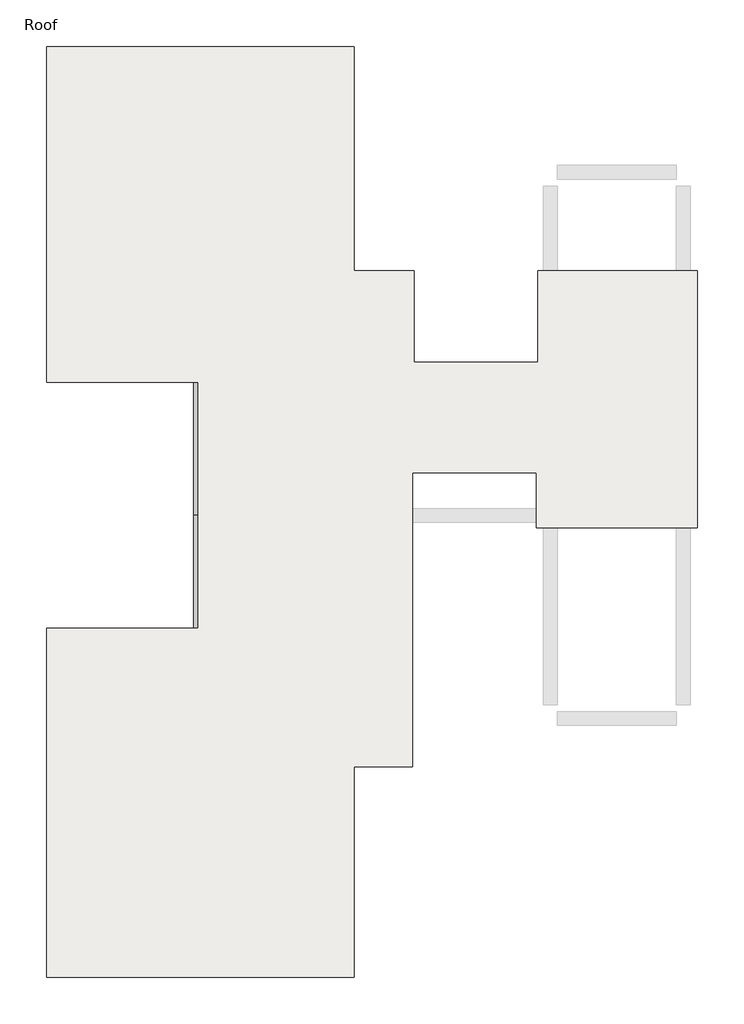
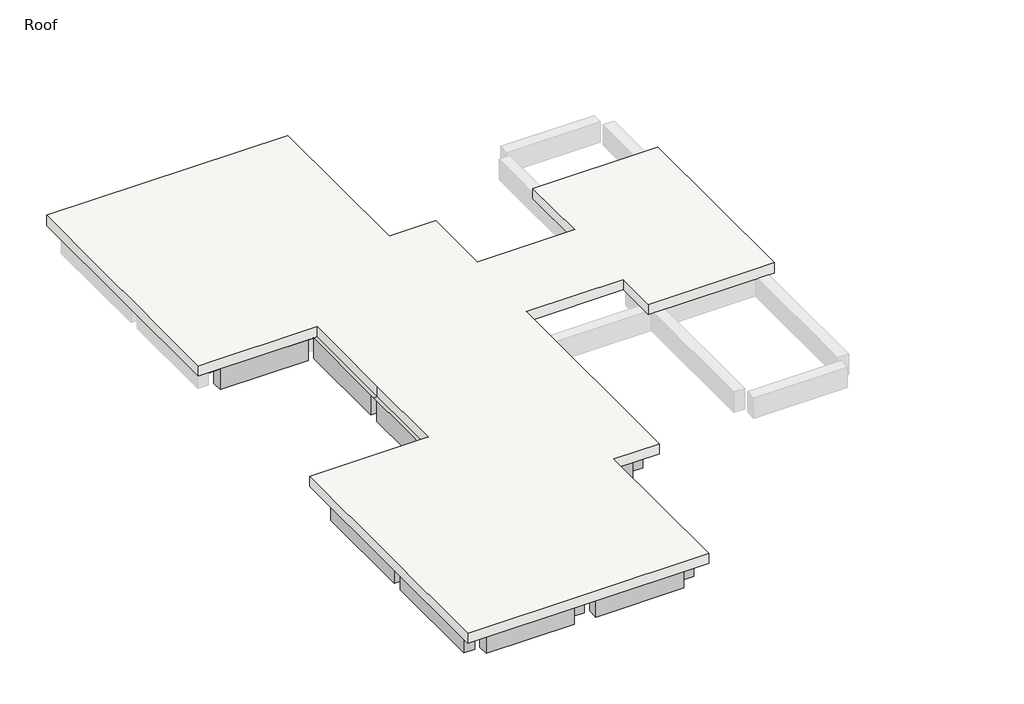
# One storey, part 1 of 2: 18 beams, 1 slab.
"""IFC4 building model written with IfcOpenShell, lengths in millimetres."""

from ifc_helpers import new_model, si_unit, origin, place, context, project, spatial, faceted_brep, element, save

model = new_model("IFC4")

# Units and contexts
model_context = context("Model", 3, world=origin())
ifc_project = project(units=[si_unit("LENGTHUNIT", "METRE", prefix="MILLI")], contexts=[model_context])

# Site, building, storey
site = spatial("IfcSite", under=ifc_project)
building = spatial("IfcBuilding", under=site)
storey = spatial("IfcBuildingStorey", under=building, Name="Roof", Elevation=7620.0)

# Beams
placement = place(None, origin())
element("IfcBeam", 1, ObjectType="M_Concrete-Rectangular Beam : 300 x 600mm", at=placement, inside=storey, context=model_context, shape_type="Brep", body=[
    faceted_brep([(-9933.3472303, 7869.016665, 7320.0), (-9933.3472303, 7719.016665, 7320.0), (-9933.3472303, 4821.016665, 7320.0), (-9783.3472303, 4821.016665, 7320.0), (-9783.3472303, 4971.016665, 7320.0), (-9633.3472303, 4971.016665, 7320.0), (-9633.3472303, 7719.016665, 7320.0), (-9633.3472303, 7869.016665, 7320.0), (-9783.3472303, 7869.016665, 7320.0), (-9633.3472303, 7719.016665, 6720.0), (-9633.3472303, 7719.016665, 7315.2), (-9633.3472303, 7869.016665, 7315.2), (-9633.3472303, 4971.016665, 6720.0), (-9933.3472303, 4971.016665, 6720.0), (-9933.3472303, 7719.016665, 6720.0), (-9933.3472303, 7869.016665, 7315.2), (-9933.3472303, 7719.016665, 7315.2), (-9933.3472303, 4971.016665, 7315.2), (-9933.3472303, 4821.016665, 7315.2), (-9783.3472303, 4971.016665, 7315.2), (-9783.3472303, 7869.016665, 7315.2), (-9783.3472303, 4821.016665, 7315.2)], [[[0, 1, 2, 3, 4, 5, 6, 7, 8]], [[9, 10, 11, 7, 6, 5, 12]], [[12, 13, 14, 9]], [[2, 1, 0, 15, 16, 14, 13, 17, 18]], [[5, 4, 19, 17, 13, 12]], [[16, 10, 9, 14]], [[10, 16, 15, 20, 11]], [[17, 19, 21, 18]], [[0, 8, 7, 11, 20, 15]], [[3, 2, 18, 21]], [[4, 3, 21, 19]]]),
])
element("IfcBeam", 2, ObjectType="M_Concrete-Rectangular Beam : 300 x 600mm", at=placement, inside=storey, context=model_context, shape_type="Brep", body=[
    faceted_brep([(-12681.3472303, 8019.016665, 7320.0), (-12681.3472303, 7869.016665, 7320.0), (-12831.3472303, 7869.016665, 7320.0), (-12831.3472303, 7719.016665, 7320.0), (-9933.3472303, 7719.016665, 7320.0), (-9933.3472303, 7869.016665, 7320.0), (-9933.3472303, 8019.016665, 7320.0), (-12531.3472303, 7719.016665, 7315.2), (-12531.3472303, 7719.016665, 6720.0), (-10083.3472303, 7719.016665, 6720.0), (-10083.3472303, 7719.016665, 7315.2), (-9933.3472303, 7719.016665, 7315.2), (-12831.3472303, 7719.016665, 7315.2), (-12531.3472303, 8019.016665, 6720.0), (-10083.3472303, 8019.016665, 6720.0), (-12681.3472303, 8019.016665, 7315.2), (-9933.3472303, 8019.016665, 7315.2), (-10083.3472303, 8019.016665, 7315.2), (-12531.3472303, 8019.016665, 7315.2), (-9933.3472303, 7869.016665, 7315.2), (-12681.3472303, 7869.016665, 7315.2), (-12831.3472303, 7869.016665, 7315.2)], [[[0, 1, 2, 3, 4, 5, 6]], [[7, 8, 9, 10, 11, 4, 3, 12]], [[8, 13, 14, 9]], [[15, 0, 6, 16, 17, 14, 13, 18]], [[6, 5, 4, 11, 19, 16]], [[1, 0, 15, 20]], [[7, 18, 13, 8]], [[18, 7, 12, 21, 20, 15]], [[17, 10, 9, 14]], [[10, 17, 16, 19, 11]], [[3, 2, 21, 12]], [[2, 1, 20, 21]]]),
])
element("IfcBeam", 3, ObjectType="M_Concrete-Rectangular Beam : 300 x 600mm", at=placement, inside=storey, context=model_context, shape_type="Brep", body=[
    faceted_brep([(-5366.3472303, 1773.016665, 7320.0), (-5366.3472303, 4671.016665, 7320.0), (-5366.3472303, 4821.016665, 7320.0), (-5516.3472303, 4821.016665, 7320.0), (-5516.3472303, 4671.016665, 7320.0), (-5666.3472303, 4671.016665, 7320.0), (-5666.3472303, 1923.016665, 7320.0), (-5666.3472303, 1773.016665, 7320.0), (-5516.3472303, 1773.016665, 7320.0), (-5666.3472303, 4671.016665, 6720.0), (-5666.3472303, 1923.016665, 6720.0), (-5666.3472303, 1923.016665, 7315.2), (-5666.3472303, 1773.016665, 7315.2), (-5366.3472303, 4671.016665, 6720.0), (-5366.3472303, 1923.016665, 6720.0), (-5366.3472303, 1773.016665, 7315.2), (-5366.3472303, 1923.016665, 7315.2), (-5366.3472303, 4671.016665, 7315.2), (-5366.3472303, 4821.016665, 7315.2), (-5516.3472303, 4671.016665, 7315.2), (-5516.3472303, 4821.016665, 7315.2), (-5516.3472303, 1773.016665, 7315.2)], [[[0, 1, 2, 3, 4, 5, 6, 7, 8]], [[7, 6, 5, 9, 10, 11, 12]], [[9, 13, 14, 10]], [[2, 1, 0, 15, 16, 14, 13, 17, 18]], [[5, 4, 19, 17, 13, 9]], [[17, 19, 20, 18]], [[16, 11, 10, 14]], [[11, 16, 15, 21, 12]], [[3, 2, 18, 20]], [[0, 8, 7, 12, 21, 15]], [[4, 3, 20, 19]]]),
])
element("IfcBeam", 4, ObjectType="M_Concrete-Rectangular Beam : 300 x 600mm", at=placement, inside=storey, context=model_context, shape_type="Brep", body=[
    faceted_brep([(-9783.3472303, 1623.016665, 7320.0), (-9633.3472303, 1623.016665, 7320.0), (-5666.3472303, 1623.016665, 7320.0), (-5516.3472303, 1623.016665, 7320.0), (-5516.3472303, 1773.016665, 7320.0), (-5666.3472303, 1773.016665, 7320.0), (-5666.3472303, 1923.016665, 7320.0), (-9633.3472303, 1923.016665, 7320.0), (-9783.3472303, 1923.016665, 7320.0), (-9783.3472303, 1773.016665, 7320.0), (-9483.3472303, 1923.016665, 6720.0), (-9483.3472303, 1923.016665, 7315.2), (-9783.3472303, 1923.016665, 7315.2), (-5666.3472303, 1923.016665, 7315.2), (-5816.3472303, 1923.016665, 7315.2), (-5816.3472303, 1923.016665, 6720.0), (-9483.3472303, 1623.016665, 6720.0), (-5816.3472303, 1623.016665, 6720.0), (-9783.3472303, 1623.016665, 7315.2), (-9483.3472303, 1623.016665, 7315.2), (-5816.3472303, 1623.016665, 7315.2), (-5516.3472303, 1623.016665, 7315.2), (-5666.3472303, 1773.016665, 7315.2), (-9783.3472303, 1773.016665, 7315.2), (-5516.3472303, 1773.016665, 7315.2)], [[[0, 1, 2, 3, 4, 5, 6, 7, 8, 9]], [[10, 11, 12, 8, 7, 6, 13, 14, 15]], [[16, 10, 15, 17]], [[3, 2, 1, 0, 18, 19, 16, 17, 20, 21]], [[6, 5, 22, 13]], [[19, 11, 10, 16]], [[11, 19, 18, 23, 12]], [[14, 20, 17, 15]], [[20, 14, 13, 22, 24, 21]], [[0, 9, 8, 12, 23, 18]], [[4, 3, 21, 24]], [[5, 4, 24, 22]]]),
])
element("IfcBeam", 5, ObjectType="M_Concrete-Rectangular Beam : 300 x 600mm", at=placement, inside=storey, context=model_context, shape_type="Brep", body=[
    faceted_brep([(-9933.3472303, 4821.016665, 7320.0), (-9933.3472303, 1923.016665, 7320.0), (-9933.3472303, 1773.016665, 7320.0), (-9783.3472303, 1773.016665, 7320.0), (-9783.3472303, 1923.016665, 7320.0), (-9633.3472303, 1923.016665, 7320.0), (-9633.3472303, 4671.016665, 7320.0), (-9783.3472303, 4671.016665, 7320.0), (-9783.3472303, 4821.016665, 7320.0), (-9633.3472303, 1923.016665, 6720.0), (-9633.3472303, 4671.016665, 6720.0), (-9933.3472303, 1923.016665, 6720.0), (-9933.3472303, 4671.016665, 6720.0), (-9933.3472303, 4821.016665, 7315.2), (-9933.3472303, 4671.016665, 7315.2), (-9933.3472303, 1923.016665, 7315.2), (-9933.3472303, 1773.016665, 7315.2), (-9783.3472303, 4671.016665, 7315.2), (-9783.3472303, 1923.016665, 7315.2), (-9783.3472303, 4821.016665, 7315.2), (-9783.3472303, 1773.016665, 7315.2)], [[[0, 1, 2, 3, 4, 5, 6, 7, 8]], [[6, 5, 9, 10]], [[9, 11, 12, 10]], [[2, 1, 0, 13, 14, 12, 11, 15, 16]], [[7, 6, 10, 12, 14, 17]], [[5, 4, 18, 15, 11, 9]], [[17, 14, 13, 19]], [[15, 18, 20, 16]], [[0, 8, 19, 13]], [[3, 2, 16, 20]], [[8, 7, 17, 19]], [[4, 3, 20, 18]]]),
])
element("IfcBeam", 6, ObjectType="M_Concrete-Rectangular Beam : 300 x 600mm", at=placement, inside=storey, context=model_context, shape_type="Brep", body=[
    faceted_brep([(-5366.3472303, -360.983335, 7320.0), (-5366.3472303, 1773.016665, 7320.0), (-5516.3472303, 1773.016665, 7320.0), (-5516.3472303, 1623.016665, 7320.0), (-5666.3472303, 1623.016665, 7320.0), (-5666.3472303, -210.983335, 7320.0), (-5666.3472303, -360.983335, 7320.0), (-5516.3472303, -360.983335, 7320.0), (-5666.3472303, 1623.016665, 6720.0), (-5666.3472303, -210.983335, 6720.0), (-5666.3472303, -210.983335, 7315.2), (-5666.3472303, -360.983335, 7315.2), (-5366.3472303, 1623.016665, 6720.0), (-5366.3472303, -210.983335, 6720.0), (-5366.3472303, -360.983335, 7315.2), (-5366.3472303, -210.983335, 7315.2), (-5366.3472303, 1623.016665, 7315.2), (-5366.3472303, 1773.016665, 7315.2), (-5516.3472303, 1623.016665, 7315.2), (-5516.3472303, 1773.016665, 7315.2), (-5516.3472303, -360.983335, 7315.2)], [[[0, 1, 2, 3, 4, 5, 6, 7]], [[6, 5, 4, 8, 9, 10, 11]], [[8, 12, 13, 9]], [[1, 0, 14, 15, 13, 12, 16, 17]], [[4, 3, 18, 16, 12, 8]], [[16, 18, 19, 17]], [[15, 10, 9, 13]], [[10, 15, 14, 20, 11]], [[2, 1, 17, 19]], [[0, 7, 6, 11, 20, 14]], [[3, 2, 19, 18]]]),
])
element("IfcBeam", 7, ObjectType="M_Concrete-Rectangular Beam : 300 x 600mm", at=placement, inside=storey, context=model_context, shape_type="Brep", body=[
    faceted_brep([(-6885.3472303, -510.983335, 7320.0), (-6585.3472303, -510.983335, 7320.0), (-5516.3472303, -510.983335, 7320.0), (-5516.3472303, -360.983335, 7320.0), (-5666.3472303, -360.983335, 7320.0), (-5666.3472303, -210.983335, 7320.0), (-6885.3472303, -210.983335, 7320.0), (-6885.3472303, -210.983335, 6720.0), (-5666.3472303, -210.983335, 7315.2), (-5816.3472303, -210.983335, 7315.2), (-5816.3472303, -210.983335, 6720.0), (-6885.3472303, -510.983335, 6720.0), (-5816.3472303, -510.983335, 6720.0), (-6585.3472303, -510.983335, 6720.0), (-5816.3472303, -510.983335, 7315.2), (-5516.3472303, -510.983335, 7315.2), (-5516.3472303, -360.983335, 7315.2), (-5666.3472303, -360.983335, 7315.2)], [[[0, 1, 2, 3, 4, 5, 6]], [[7, 6, 5, 8, 9, 10]], [[11, 7, 10, 12, 13]], [[2, 1, 0, 11, 13, 12, 14, 15]], [[3, 2, 15, 16]], [[0, 6, 7, 11]], [[5, 4, 17, 8]], [[4, 3, 16, 17]], [[9, 14, 12, 10]], [[14, 9, 8, 17, 16, 15]]]),
])
element("IfcBeam", 8, ObjectType="M_Concrete-Rectangular Beam : 300 x 600mm", at=placement, inside=storey, context=model_context, shape_type="Brep", body=[
    faceted_brep([(-6885.3472303, -1579.983335, 7320.0), (-6735.3472303, -1579.983335, 7320.0), (-6585.3472303, -1579.983335, 7320.0), (-6585.3472303, -510.983335, 7320.0), (-6885.3472303, -510.983335, 7320.0), (-6885.3472303, -1429.983335, 7320.0), (-6885.3472303, -510.983335, 6720.0), (-6885.3472303, -1429.983335, 6720.0), (-6885.3472303, -1429.983335, 7315.2), (-6885.3472303, -1579.983335, 7315.2), (-6585.3472303, -510.983335, 6720.0), (-6585.3472303, -1429.983335, 6720.0), (-6585.3472303, -1579.983335, 7315.2), (-6585.3472303, -1429.983335, 7315.2), (-6735.3472303, -1579.983335, 7315.2)], [[[0, 1, 2, 3, 4, 5]], [[0, 5, 4, 6, 7, 8, 9]], [[6, 10, 11, 7]], [[3, 2, 12, 13, 11, 10]], [[2, 1, 0, 9, 14, 12]], [[4, 3, 10, 6]], [[13, 8, 7, 11]], [[8, 13, 12, 14, 9]]]),
])
element("IfcBeam", 9, ObjectType="M_Concrete-Rectangular Beam : 300 x 600mm", at=placement, inside=storey, context=model_context, shape_type="Brep", body=[
    faceted_brep([(-6585.3472303, -4932.983335, 7320.0), (-6585.3472303, -1579.983335, 7320.0), (-6735.3472303, -1579.983335, 7320.0), (-6735.3472303, -1729.983335, 7320.0), (-6885.3472303, -1729.983335, 7320.0), (-6885.3472303, -4782.983335, 7320.0), (-6885.3472303, -4932.983335, 7320.0), (-6735.3472303, -4932.983335, 7320.0), (-6885.3472303, -1729.983335, 6720.0), (-6885.3472303, -4782.983335, 6720.0), (-6885.3472303, -4782.983335, 7315.2), (-6885.3472303, -4932.983335, 7315.2), (-6585.3472303, -1729.983335, 6720.0), (-6585.3472303, -4782.983335, 6720.0), (-6585.3472303, -4932.983335, 7315.2), (-6585.3472303, -4782.983335, 7315.2), (-6585.3472303, -1729.983335, 7315.2), (-6585.3472303, -1579.983335, 7315.2), (-6735.3472303, -1579.983335, 7315.2), (-6735.3472303, -4932.983335, 7315.2), (-6735.3472303, -1729.983335, 7315.2)], [[[0, 1, 2, 3, 4, 5, 6, 7]], [[4, 8, 9, 10, 11, 6, 5]], [[9, 8, 12, 13]], [[1, 0, 14, 15, 13, 12, 16, 17]], [[1, 17, 18, 2]], [[0, 7, 6, 11, 19, 14]], [[4, 3, 20, 16, 12, 8]], [[17, 16, 20, 18]], [[15, 10, 9, 13]], [[10, 15, 14, 19, 11]], [[20, 3, 2, 18]]]),
])
element("IfcBeam", 10, ObjectType="M_Concrete-Rectangular Beam : 300 x 600mm", at=placement, inside=storey, context=model_context, shape_type="Brep", body=[
    faceted_brep([(-9783.3472303, -5082.983335, 7320.0), (-6735.3472303, -5082.983335, 7320.0), (-6735.3472303, -4932.983335, 7320.0), (-6885.3472303, -4932.983335, 7320.0), (-6885.3472303, -4782.983335, 7320.0), (-9633.3472303, -4782.983335, 7320.0), (-9783.3472303, -4782.983335, 7320.0), (-9783.3472303, -4932.983335, 7320.0), (-9483.3472303, -4782.983335, 6720.0), (-9483.3472303, -4782.983335, 7315.2), (-9783.3472303, -4782.983335, 7315.2), (-6885.3472303, -4782.983335, 7315.2), (-7035.3472303, -4782.983335, 7315.2), (-7035.3472303, -4782.983335, 6720.0), (-9483.3472303, -5082.983335, 6720.0), (-7035.3472303, -5082.983335, 6720.0), (-9783.3472303, -5082.983335, 7315.2), (-9483.3472303, -5082.983335, 7315.2), (-7035.3472303, -5082.983335, 7315.2), (-6735.3472303, -5082.983335, 7315.2), (-6885.3472303, -4932.983335, 7315.2), (-9783.3472303, -4932.983335, 7315.2), (-6735.3472303, -4932.983335, 7315.2)], [[[0, 1, 2, 3, 4, 5, 6, 7]], [[8, 9, 10, 6, 5, 4, 11, 12, 13]], [[14, 8, 13, 15]], [[1, 0, 16, 17, 14, 15, 18, 19]], [[4, 3, 20, 11]], [[17, 9, 8, 14]], [[9, 17, 16, 21, 10]], [[12, 18, 15, 13]], [[18, 12, 11, 20, 22, 19]], [[0, 7, 6, 10, 21, 16]], [[2, 1, 19, 22]], [[3, 2, 22, 20]]]),
])
element("IfcBeam", 11, ObjectType="M_Concrete-Rectangular Beam : 300 x 600mm", at=placement, inside=storey, context=model_context, shape_type="Brep", body=[
    faceted_brep([(-9933.3472303, -1579.983335, 7320.0), (-9933.3472303, -1729.983335, 7320.0), (-9933.3472303, -4782.983335, 7320.0), (-9933.3472303, -4932.983335, 7320.0), (-9783.3472303, -4932.983335, 7320.0), (-9783.3472303, -4782.983335, 7320.0), (-9633.3472303, -4782.983335, 7320.0), (-9633.3472303, -1729.983335, 7320.0), (-9633.3472303, -1579.983335, 7320.0), (-9783.3472303, -1579.983335, 7320.0), (-9633.3472303, -4782.983335, 6720.0), (-9633.3472303, -1729.983335, 6720.0), (-9633.3472303, -1729.983335, 7315.2), (-9633.3472303, -1579.983335, 7315.2), (-9933.3472303, -4782.983335, 6720.0), (-9933.3472303, -1729.983335, 6720.0), (-9933.3472303, -1579.983335, 7315.2), (-9933.3472303, -1729.983335, 7315.2), (-9933.3472303, -4782.983335, 7315.2), (-9933.3472303, -4932.983335, 7315.2), (-9783.3472303, -1579.983335, 7315.2), (-9783.3472303, -4932.983335, 7315.2), (-9783.3472303, -4782.983335, 7315.2)], [[[0, 1, 2, 3, 4, 5, 6, 7, 8, 9]], [[8, 7, 6, 10, 11, 12, 13]], [[11, 10, 14, 15]], [[3, 2, 1, 0, 16, 17, 15, 14, 18, 19]], [[0, 9, 8, 13, 20, 16]], [[4, 3, 19, 21]], [[6, 5, 22, 18, 14, 10]], [[5, 4, 21, 22]], [[17, 12, 11, 15]], [[12, 17, 16, 20, 13]], [[18, 22, 21, 19]]]),
])
element("IfcBeam", 12, ObjectType="M_Concrete-Rectangular Beam : 300 x 600mm", at=placement, inside=storey, context=model_context, shape_type="Brep", body=[
    faceted_brep([(-6885.3472303, -1579.983335, 7320.0), (-6885.3472303, -1429.983335, 7320.0), (-9633.3472303, -1429.983335, 7320.0), (-9783.3472303, -1429.983335, 7320.0), (-9783.3472303, -1579.983335, 7320.0), (-9633.3472303, -1579.983335, 7320.0), (-9633.3472303, -1729.983335, 7320.0), (-6885.3472303, -1729.983335, 7320.0), (-6735.3472303, -1729.983335, 7320.0), (-6735.3472303, -1579.983335, 7320.0), (-9633.3472303, -1729.983335, 7315.2), (-9483.3472303, -1729.983335, 7315.2), (-9483.3472303, -1729.983335, 6720.0), (-7035.3472303, -1729.983335, 6720.0), (-7035.3472303, -1729.983335, 7315.2), (-6735.3472303, -1729.983335, 7315.2), (-9483.3472303, -1429.983335, 6720.0), (-7035.3472303, -1429.983335, 6720.0), (-9483.3472303, -1429.983335, 7315.2), (-9783.3472303, -1429.983335, 7315.2), (-6885.3472303, -1429.983335, 7315.2), (-7035.3472303, -1429.983335, 7315.2), (-6885.3472303, -1579.983335, 7315.2), (-9633.3472303, -1579.983335, 7315.2), (-9783.3472303, -1579.983335, 7315.2), (-6735.3472303, -1579.983335, 7315.2)], [[[0, 1, 2, 3, 4, 5, 6, 7, 8, 9]], [[6, 10, 11, 12, 13, 14, 15, 8, 7]], [[12, 16, 17, 13]], [[16, 18, 19, 3, 2, 1, 20, 21, 17]], [[1, 0, 22, 20]], [[6, 5, 23, 10]], [[11, 18, 16, 12]], [[18, 11, 10, 23, 24, 19]], [[21, 14, 13, 17]], [[14, 21, 20, 22, 25, 15]], [[4, 3, 19, 24]], [[9, 8, 15, 25]], [[0, 9, 25, 22]], [[5, 4, 24, 23]]]),
])
element("IfcBeam", 13, ObjectType="M_Concrete-Rectangular Beam : 300 x 600mm", at=placement, inside=storey, context=model_context, shape_type="Brep", body=[
    faceted_brep([(-9933.3472303, 1773.016665, 7320.0), (-9933.3472303, 1623.016665, 7320.0), (-9933.3472303, -1429.983335, 7320.0), (-9933.3472303, -1579.983335, 7320.0), (-9783.3472303, -1579.983335, 7320.0), (-9783.3472303, -1429.983335, 7320.0), (-9633.3472303, -1429.983335, 7320.0), (-9633.3472303, 1623.016665, 7320.0), (-9783.3472303, 1623.016665, 7320.0), (-9783.3472303, 1773.016665, 7320.0), (-9633.3472303, -1429.983335, 6720.0), (-9633.3472303, 1623.016665, 6720.0), (-9933.3472303, -1429.983335, 6720.0), (-9933.3472303, 1623.016665, 6720.0), (-9933.3472303, 1773.016665, 7315.2), (-9933.3472303, 1623.016665, 7315.2), (-9933.3472303, -1429.983335, 7315.2), (-9933.3472303, -1579.983335, 7315.2), (-9783.3472303, 1773.016665, 7315.2), (-9783.3472303, -1579.983335, 7315.2), (-9783.3472303, 1623.016665, 7315.2), (-9783.3472303, -1429.983335, 7315.2)], [[[0, 1, 2, 3, 4, 5, 6, 7, 8, 9]], [[7, 6, 10, 11]], [[11, 10, 12, 13]], [[3, 2, 1, 0, 14, 15, 13, 12, 16, 17]], [[0, 9, 18, 14]], [[4, 3, 17, 19]], [[8, 7, 11, 13, 15, 20]], [[9, 8, 20, 18]], [[6, 5, 21, 16, 12, 10]], [[5, 4, 19, 21]], [[20, 15, 14, 18]], [[16, 21, 19, 17]]]),
])
element("IfcBeam", 14, ObjectType="M_Concrete-Rectangular Beam : 300 x 600mm", at=placement, inside=storey, context=model_context, shape_type="Brep", body=[
    faceted_brep([(-12831.3472303, -5082.983335, 7320.0), (-9783.3472303, -5082.983335, 7320.0), (-9783.3472303, -4932.983335, 7320.0), (-9933.3472303, -4932.983335, 7320.0), (-9933.3472303, -4782.983335, 7320.0), (-12681.3472303, -4782.983335, 7320.0), (-12831.3472303, -4782.983335, 7320.0), (-12831.3472303, -4932.983335, 7320.0), (-12531.3472303, -4782.983335, 6720.0), (-12531.3472303, -4782.983335, 7315.2), (-12831.3472303, -4782.983335, 7315.2), (-9933.3472303, -4782.983335, 7315.2), (-10083.3472303, -4782.983335, 7315.2), (-10083.3472303, -4782.983335, 6720.0), (-12531.3472303, -5082.983335, 6720.0), (-10083.3472303, -5082.983335, 6720.0), (-12831.3472303, -5082.983335, 7315.2), (-12531.3472303, -5082.983335, 7315.2), (-10083.3472303, -5082.983335, 7315.2), (-9783.3472303, -5082.983335, 7315.2), (-9933.3472303, -4932.983335, 7315.2), (-12831.3472303, -4932.983335, 7315.2), (-9783.3472303, -4932.983335, 7315.2)], [[[0, 1, 2, 3, 4, 5, 6, 7]], [[8, 9, 10, 6, 5, 4, 11, 12, 13]], [[14, 8, 13, 15]], [[1, 0, 16, 17, 14, 15, 18, 19]], [[4, 3, 20, 11]], [[17, 9, 8, 14]], [[9, 17, 16, 21, 10]], [[12, 18, 15, 13]], [[18, 12, 11, 20, 22, 19]], [[0, 7, 6, 10, 21, 16]], [[2, 1, 19, 22]], [[3, 2, 22, 20]]]),
])
element("IfcBeam", 15, ObjectType="M_Concrete-Rectangular Beam : 300 x 600mm", at=placement, inside=storey, context=model_context, shape_type="Brep", body=[
    faceted_brep([(-12981.3472303, -1579.983335, 7320.0), (-12981.3472303, -4932.983335, 7320.0), (-12831.3472303, -4932.983335, 7320.0), (-12831.3472303, -4782.983335, 7320.0), (-12681.3472303, -4782.983335, 7320.0), (-12681.3472303, -1729.983335, 7320.0), (-12681.3472303, -1579.983335, 7320.0), (-12831.3472303, -1579.983335, 7320.0), (-12681.3472303, -4782.983335, 6720.0), (-12681.3472303, -1729.983335, 6720.0), (-12681.3472303, -1729.983335, 7315.2), (-12681.3472303, -1579.983335, 7315.2), (-12981.3472303, -4782.983335, 6720.0), (-12981.3472303, -1729.983335, 6720.0), (-12981.3472303, -1579.983335, 7315.2), (-12981.3472303, -1729.983335, 7315.2), (-12981.3472303, -4782.983335, 7315.2), (-12981.3472303, -4932.983335, 7315.2), (-12831.3472303, -1579.983335, 7315.2), (-12831.3472303, -4932.983335, 7315.2), (-12831.3472303, -4782.983335, 7315.2)], [[[0, 1, 2, 3, 4, 5, 6, 7]], [[6, 5, 4, 8, 9, 10, 11]], [[9, 8, 12, 13]], [[1, 0, 14, 15, 13, 12, 16, 17]], [[0, 7, 6, 11, 18, 14]], [[2, 1, 17, 19]], [[4, 3, 20, 16, 12, 8]], [[3, 2, 19, 20]], [[15, 10, 9, 13]], [[10, 15, 14, 18, 11]], [[16, 20, 19, 17]]]),
])
element("IfcBeam", 16, ObjectType="M_Concrete-Rectangular Beam : 300 x 600mm", at=placement, inside=storey, context=model_context, shape_type="Brep", body=[
    faceted_brep([(-12681.3472303, -1579.983335, 7320.0), (-12681.3472303, -1729.983335, 7320.0), (-9933.3472303, -1729.983335, 7320.0), (-9933.3472303, -1579.983335, 7320.0), (-9933.3472303, -1429.983335, 7320.0), (-12681.3472303, -1429.983335, 7320.0), (-12831.3472303, -1429.983335, 7320.0), (-12831.3472303, -1579.983335, 7320.0), (-12681.3472303, -1729.983335, 7315.2), (-12531.3472303, -1729.983335, 7315.2), (-12531.3472303, -1729.983335, 6720.0), (-10083.3472303, -1729.983335, 6720.0), (-10083.3472303, -1729.983335, 7315.2), (-9933.3472303, -1729.983335, 7315.2), (-12531.3472303, -1429.983335, 6720.0), (-10083.3472303, -1429.983335, 6720.0), (-12531.3472303, -1429.983335, 7315.2), (-12831.3472303, -1429.983335, 7315.2), (-9933.3472303, -1429.983335, 7315.2), (-10083.3472303, -1429.983335, 7315.2), (-9933.3472303, -1579.983335, 7315.2), (-12681.3472303, -1579.983335, 7315.2), (-12831.3472303, -1579.983335, 7315.2)], [[[0, 1, 2, 3, 4, 5, 6, 7]], [[1, 8, 9, 10, 11, 12, 13, 2]], [[10, 14, 15, 11]], [[14, 16, 17, 6, 5, 4, 18, 19, 15]], [[4, 3, 2, 13, 20, 18]], [[1, 0, 21, 8]], [[9, 16, 14, 10]], [[16, 9, 8, 21, 22, 17]], [[19, 12, 11, 15]], [[12, 19, 18, 20, 13]], [[7, 6, 17, 22]], [[0, 7, 22, 21]]]),
])
element("IfcBeam", 17, ObjectType="M_Concrete-Rectangular Beam : 300 x 600mm", at=placement, inside=storey, context=model_context, shape_type="Brep", body=[
    faceted_brep([(-12981.3472303, 1773.016665, 7320.0), (-12981.3472303, -1579.983335, 7320.0), (-12831.3472303, -1579.983335, 7320.0), (-12831.3472303, -1429.983335, 7320.0), (-12681.3472303, -1429.983335, 7320.0), (-12681.3472303, 1623.016665, 7320.0), (-12681.3472303, 1773.016665, 7320.0), (-12831.3472303, 1773.016665, 7320.0), (-12681.3472303, -1429.983335, 6720.0), (-12681.3472303, 1623.016665, 6720.0), (-12681.3472303, 1623.016665, 7315.2), (-12681.3472303, 1773.016665, 7315.2), (-12981.3472303, -1429.983335, 6720.0), (-12981.3472303, 1623.016665, 6720.0), (-12981.3472303, 1773.016665, 7315.2), (-12981.3472303, 1623.016665, 7315.2), (-12981.3472303, -1429.983335, 7315.2), (-12981.3472303, -1579.983335, 7315.2), (-12831.3472303, 1773.016665, 7315.2), (-12831.3472303, -1579.983335, 7315.2), (-12831.3472303, -1429.983335, 7315.2)], [[[0, 1, 2, 3, 4, 5, 6, 7]], [[6, 5, 4, 8, 9, 10, 11]], [[9, 8, 12, 13]], [[1, 0, 14, 15, 13, 12, 16, 17]], [[0, 7, 6, 11, 18, 14]], [[2, 1, 17, 19]], [[4, 3, 20, 16, 12, 8]], [[3, 2, 19, 20]], [[15, 10, 9, 13]], [[10, 15, 14, 18, 11]], [[16, 20, 19, 17]]]),
])
element("IfcBeam", 18, ObjectType="M_Concrete-Rectangular Beam : 300 x 600mm", at=placement, inside=storey, context=model_context, shape_type="Brep", body=[
    faceted_brep([(-12681.3472303, 1773.016665, 7320.0), (-12681.3472303, 1623.016665, 7320.0), (-9933.3472303, 1623.016665, 7320.0), (-9933.3472303, 1773.016665, 7320.0), (-9933.3472303, 1923.016665, 7320.0), (-12831.3472303, 1923.016665, 7320.0), (-12831.3472303, 1773.016665, 7320.0), (-12681.3472303, 1623.016665, 7315.2), (-12531.3472303, 1623.016665, 7315.2), (-12531.3472303, 1623.016665, 6720.0), (-10083.3472303, 1623.016665, 6720.0), (-10083.3472303, 1623.016665, 7315.2), (-9933.3472303, 1623.016665, 7315.2), (-12531.3472303, 1923.016665, 6720.0), (-10083.3472303, 1923.016665, 6720.0), (-12531.3472303, 1923.016665, 7315.2), (-12831.3472303, 1923.016665, 7315.2), (-9933.3472303, 1923.016665, 7315.2), (-10083.3472303, 1923.016665, 7315.2), (-9933.3472303, 1773.016665, 7315.2), (-12681.3472303, 1773.016665, 7315.2), (-12831.3472303, 1773.016665, 7315.2)], [[[0, 1, 2, 3, 4, 5, 6]], [[1, 7, 8, 9, 10, 11, 12, 2]], [[9, 13, 14, 10]], [[13, 15, 16, 5, 4, 17, 18, 14]], [[4, 3, 2, 12, 19, 17]], [[1, 0, 20, 7]], [[8, 15, 13, 9]], [[15, 8, 7, 20, 21, 16]], [[18, 11, 10, 14]], [[11, 18, 17, 19, 12]], [[6, 5, 16, 21]], [[0, 6, 21, 20]]]),
])

# Slab
element("IfcSlab", 19, ObjectType="Generic 300mm", at=placement, inside=storey, context=model_context, shape_type="Brep", body=[
    faceted_brep([(-6435.3472303, 15026.016665, 7320.0), (-6435.3472303, 10150.016665, 7320.0), (-5135.3472303, 10150.016665, 7320.0), (-5135.3472303, 8150.016665, 7320.0), (-2435.3472303, 8150.016665, 7320.0), (-2435.3472303, 10150.016665, 7320.0), (1032.6527697, 10150.016665, 7320.0), (1032.6527697, 6190.016665, 7320.0), (1032.6527697, 5890.016665, 7320.0), (1032.6527697, 4550.016665, 7320.0), (-2467.3472303, 4550.016665, 7320.0), (-2467.3472303, 5750.016665, 7320.0), (-5167.3472303, 5750.016665, 7320.0), (-5167.3472303, -649.983335, 7320.0), (-6435.3472303, -649.983335, 7320.0), (-6435.3472303, -5232.983335, 7320.0), (-13135.3472303, -5232.983335, 7320.0), (-13135.3472303, 2367.016665, 7320.0), (-9835.3472303, 2367.016665, 7320.0), (-9835.3472303, 4821.016665, 7320.0), (-9835.3472303, 7721.016665, 7320.0), (-13131.3472303, 7721.016665, 7320.0), (-13131.3472303, 15026.016665, 7320.0), (-6435.3472303, 15026.016665, 7620.0), (-13131.3472303, 15026.016665, 7620.0), (-13131.3472303, 7721.016665, 7620.0), (-9835.3472303, 7721.016665, 7620.0), (-9835.3472303, 4821.016665, 7620.0), (-9835.3472303, 2367.016665, 7620.0), (-13135.3472303, 2367.016665, 7620.0), (-13135.3472303, -5232.983335, 7620.0), (-6435.3472303, -5232.983335, 7620.0), (-6435.3472303, -649.983335, 7620.0), (-5167.3472303, -649.983335, 7620.0), (-5167.3472303, 5750.016665, 7620.0), (-2467.3472303, 5750.016665, 7620.0), (-2467.3472303, 4550.016665, 7620.0), (1032.6527697, 4550.016665, 7620.0), (1032.6527697, 10150.016665, 7620.0), (-2435.3472303, 10150.016665, 7620.0), (-2435.3472303, 8150.016665, 7620.0), (-5135.3472303, 8150.016665, 7620.0), (-5135.3472303, 10150.016665, 7620.0), (-6435.3472303, 10150.016665, 7620.0)], [[[0, 1, 2, 3, 4, 5, 6, 7, 8, 9, 10, 11, 12, 13, 14, 15, 16, 17, 18, 19, 20, 21, 22]], [[23, 24, 25, 26, 27, 28, 29, 30, 31, 32, 33, 34, 35, 36, 37, 38, 39, 40, 41, 42, 43]], [[1, 0, 23, 43]], [[2, 1, 43, 42]], [[3, 2, 42, 41]], [[4, 3, 41, 40]], [[5, 4, 40, 39]], [[6, 5, 39, 38]], [[9, 8, 7, 6, 38, 37]], [[10, 9, 37, 36]], [[11, 10, 36, 35]], [[12, 11, 35, 34]], [[13, 12, 34, 33]], [[14, 13, 33, 32]], [[15, 14, 32, 31]], [[16, 15, 31, 30]], [[17, 16, 30, 29]], [[18, 17, 29, 28]], [[19, 18, 28, 27]], [[20, 19, 27, 26]], [[21, 20, 26, 25]], [[22, 21, 25, 24]], [[0, 22, 24, 23]]]),
])

save(model, "model.ifc")
